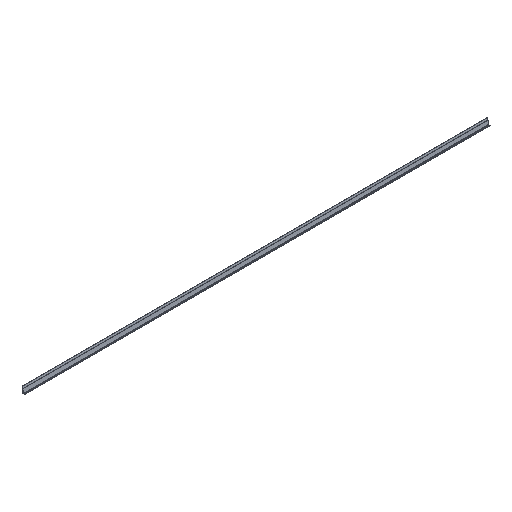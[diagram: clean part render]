
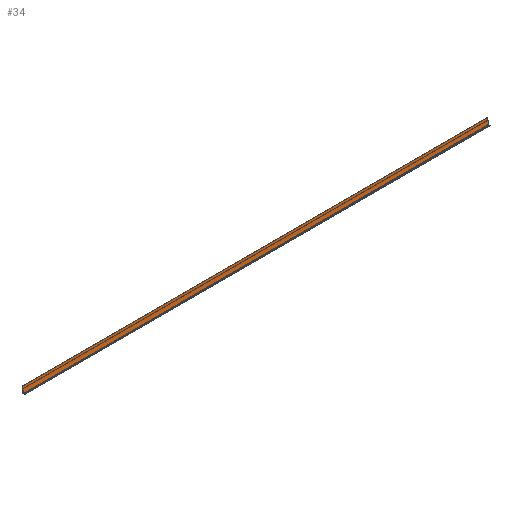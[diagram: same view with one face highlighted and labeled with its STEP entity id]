
A CAD part, isometric view. The second image highlights one B-rep face of the part: STEP entity #34.
In plain terms, the highlighted planar face has unit normal (0, -0.966, 0.259).
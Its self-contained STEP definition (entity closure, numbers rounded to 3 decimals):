
#25 = VECTOR ( 'NONE', #79, 1000. ) ;
#34 = ADVANCED_FACE ( 'NONE', ( #518 ), #814, .F. ) ;
#57 = ORIENTED_EDGE ( 'NONE', *, *, #640, .F. ) ;
#79 = DIRECTION ( 'NONE',  ( -1., 0., 0. ) ) ;
#83 = CARTESIAN_POINT ( 'NONE',  ( 3000., -2.901, 2.471 ) ) ;
#116 = EDGE_CURVE ( 'NONE', #118, #515, #840, .T. ) ;
#118 = VERTEX_POINT ( 'NONE', #746 ) ;
#121 = VERTEX_POINT ( 'NONE', #83 ) ;
#203 = DIRECTION ( 'NONE',  ( 0., -0.259, -0.966 ) ) ;
#210 = DIRECTION ( 'NONE',  ( 0., 0.259, 0.966 ) ) ;
#230 = ORIENTED_EDGE ( 'NONE', *, *, #536, .F. ) ;
#286 = VERTEX_POINT ( 'NONE', #773 ) ;
#427 = LINE ( 'NONE', #718, #496 ) ;
#454 = LINE ( 'NONE', #733, #938 ) ;
#496 = VECTOR ( 'NONE', #203, 1000. ) ;
#509 = DIRECTION ( 'NONE',  ( 0., -0.259, -0.966 ) ) ;
#515 = VERTEX_POINT ( 'NONE', #796 ) ;
#518 = FACE_OUTER_BOUND ( 'NONE', #658, .T. ) ;
#536 = EDGE_CURVE ( 'NONE', #118, #121, #427, .T. ) ;
#613 = EDGE_CURVE ( 'NONE', #515, #286, #858, .T. ) ;
#639 = ORIENTED_EDGE ( 'NONE', *, *, #116, .T. ) ;
#640 = EDGE_CURVE ( 'NONE', #121, #286, #454, .T. ) ;
#653 = DIRECTION ( 'NONE',  ( -1., 0., 0. ) ) ;
#658 = EDGE_LOOP ( 'NONE', ( #765, #57, #230, #639 ) ) ;
#662 = CARTESIAN_POINT ( 'NONE',  ( 0., 6.948, 39.226 ) ) ;
#667 = CARTESIAN_POINT ( 'NONE',  ( 3000., 6.948, 39.226 ) ) ;
#718 = CARTESIAN_POINT ( 'NONE',  ( 3000., 6.948, 39.226 ) ) ;
#733 = CARTESIAN_POINT ( 'NONE',  ( 3000., -2.901, 2.471 ) ) ;
#738 = DIRECTION ( 'NONE',  ( 0., 0.966, -0.259 ) ) ;
#746 = CARTESIAN_POINT ( 'NONE',  ( 3000., 6.948, 39.226 ) ) ;
#765 = ORIENTED_EDGE ( 'NONE', *, *, #613, .T. ) ;
#773 = CARTESIAN_POINT ( 'NONE',  ( 0., -2.901, 2.471 ) ) ;
#796 = CARTESIAN_POINT ( 'NONE',  ( 0., 6.948, 39.226 ) ) ;
#814 = PLANE ( 'NONE',  #831 ) ;
#831 = AXIS2_PLACEMENT_3D ( 'NONE', #945, #738, #210 ) ;
#840 = LINE ( 'NONE', #667, #25 ) ;
#858 = LINE ( 'NONE', #662, #916 ) ;
#916 = VECTOR ( 'NONE', #509, 1000. ) ;
#938 = VECTOR ( 'NONE', #653, 1000. ) ;
#945 = CARTESIAN_POINT ( 'NONE',  ( 3000., 6.948, 39.226 ) ) ;
